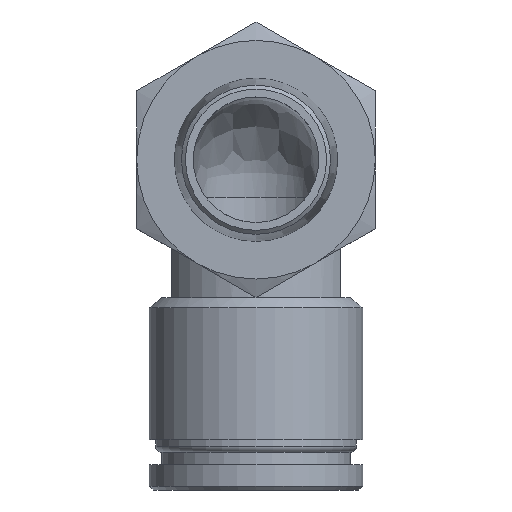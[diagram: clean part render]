
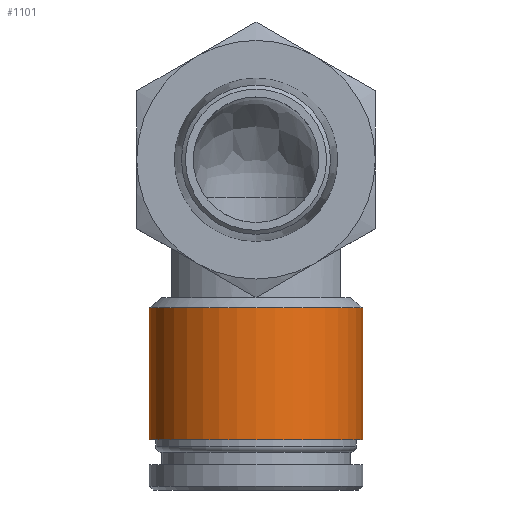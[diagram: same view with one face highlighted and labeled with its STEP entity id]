
A CAD part, front view. The second image highlights one B-rep face of the part: STEP entity #1101.
In plain terms, the highlighted cylindrical face has radius 8.5 mm (diameter 17 mm), a full revolution.
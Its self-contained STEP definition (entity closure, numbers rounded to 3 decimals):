
#79=CYLINDRICAL_SURFACE('',#1245,8.5);
#142=FACE_OUTER_BOUND('',#217,.T.);
#217=EDGE_LOOP('',(#960,#961,#962,#963));
#278=CIRCLE('',#1238,8.5);
#281=CIRCLE('',#1244,8.5);
#351=LINE('',#1932,#423);
#423=VECTOR('',#1549,8.5);
#522=VERTEX_POINT('',#1919);
#524=VERTEX_POINT('',#1929);
#669=EDGE_CURVE('',#522,#522,#278,.T.);
#673=EDGE_CURVE('',#524,#524,#281,.T.);
#674=EDGE_CURVE('',#522,#524,#351,.T.);
#960=ORIENTED_EDGE('',*,*,#669,.F.);
#961=ORIENTED_EDGE('',*,*,#674,.T.);
#962=ORIENTED_EDGE('',*,*,#673,.T.);
#963=ORIENTED_EDGE('',*,*,#674,.F.);
#1101=ADVANCED_FACE('',(#142),#79,.T.);
#1238=AXIS2_PLACEMENT_3D('',#1921,#1532,#1533);
#1244=AXIS2_PLACEMENT_3D('',#1930,#1545,#1546);
#1245=AXIS2_PLACEMENT_3D('',#1931,#1547,#1548);
#1532=DIRECTION('center_axis',(0.,0.,1.));
#1533=DIRECTION('ref_axis',(1.,0.,0.));
#1545=DIRECTION('center_axis',(0.,0.,1.));
#1546=DIRECTION('ref_axis',(1.,0.,0.));
#1547=DIRECTION('center_axis',(0.,0.,1.));
#1548=DIRECTION('ref_axis',(0.,-1.,0.));
#1549=DIRECTION('',(0.,0.,-1.));
#1919=CARTESIAN_POINT('',(0.,21.5,-11.8));
#1921=CARTESIAN_POINT('Origin',(0.,13.,-11.8));
#1929=CARTESIAN_POINT('',(0.,21.5,-22.3));
#1930=CARTESIAN_POINT('Origin',(0.,13.,-22.3));
#1931=CARTESIAN_POINT('Origin',(0.,13.,-17.05));
#1932=CARTESIAN_POINT('',(0.,21.5,-17.05));
